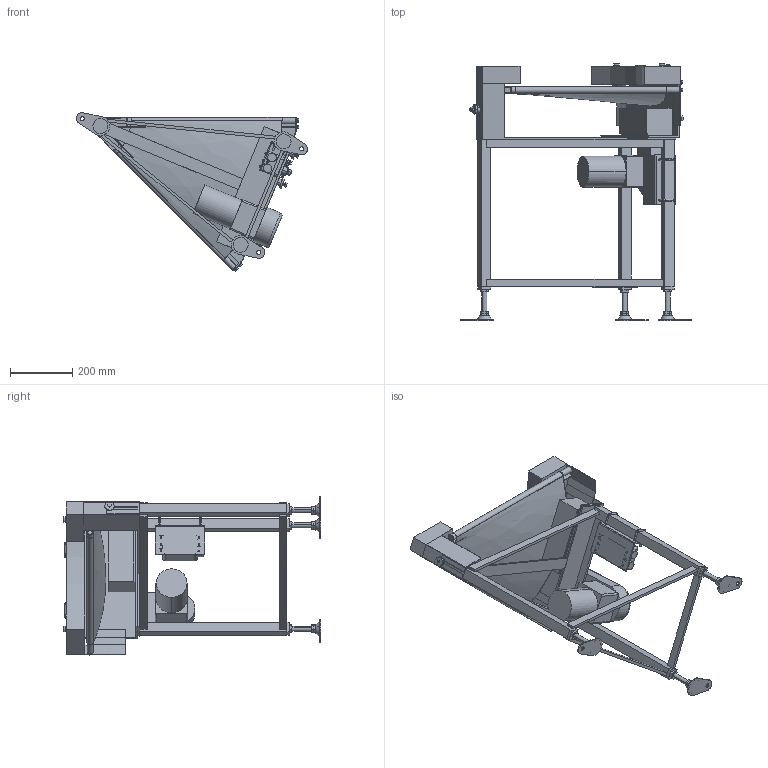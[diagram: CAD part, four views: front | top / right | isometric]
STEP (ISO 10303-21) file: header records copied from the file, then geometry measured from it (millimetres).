
FILE_DESCRIPTION( (''), '2;1');
FILE_NAME ('GFBC-UD-309-400-45°-L-K-60.stp','2025-01-31T09:57:59',(''),(''),'spGate 20.6.2 (****-****-****-****)','','');
FILE_SCHEMA (('AUTOMOTIVE_DESIGN'));
Length unit declared in the file: millimetre
Products named in the file (55): NewModel; TEMP_X_T-prt0; TEMP_X_T-prt1; TEMP_X_T-prt2; TEMP_X_T-prt3; TEMP_X_T-prt4; TEMP_X_T-prt5; TEMP_X_T-prt6; TEMP_X_T-prt7; TEMP_X_T-prt8; TEMP_X_T-prt9; TEMP_X_T-prt10; TEMP_X_T-prt11; TEMP_X_T-prt12; TEMP_X_T-prt13; TEMP_X_T-prt14; TEMP_X_T-prt15; TEMP_X_T-prt16; TEMP_X_T-prt17; TEMP_X_T-prt18; TEMP_X_T-prt19; TEMP_X_T-prt20; TEMP_X_T-prt21; TEMP_X_T-prt22; TEMP_X_T-prt23; TEMP_X_T-prt24; TEMP_X_T-prt25; TEMP_X_T-prt26; TEMP_X_T-prt27; TEMP_X_T-prt28; TEMP_X_T-prt29; TEMP_X_T-prt30; TEMP_X_T-prt31; TEMP_X_T-prt32; TEMP_X_T-prt33; TEMP_X_T-prt34; TEMP_X_T-prt35; TEMP_X_T-prt36; TEMP_X_T-prt37; TEMP_X_T-prt38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
Assembly tree (54 placements, depth 2):
  NewModel
    TEMP_X_T-prt0
    TEMP_X_T-prt1
    TEMP_X_T-prt2
    TEMP_X_T-prt3
    TEMP_X_T-prt4
    TEMP_X_T-prt5
    TEMP_X_T-prt6
    TEMP_X_T-prt7
    TEMP_X_T-prt8
    TEMP_X_T-prt9
    TEMP_X_T-prt10
    TEMP_X_T-prt11
    TEMP_X_T-prt12
    TEMP_X_T-prt13
    TEMP_X_T-prt14
    TEMP_X_T-prt15
    TEMP_X_T-prt16
    TEMP_X_T-prt17
    TEMP_X_T-prt18
    TEMP_X_T-prt19
    TEMP_X_T-prt20
    TEMP_X_T-prt21
    TEMP_X_T-prt22
    TEMP_X_T-prt23
    TEMP_X_T-prt24
    TEMP_X_T-prt25
    TEMP_X_T-prt26
    TEMP_X_T-prt27
    TEMP_X_T-prt28
    TEMP_X_T-prt29
    TEMP_X_T-prt30
    TEMP_X_T-prt31
    TEMP_X_T-prt32
    TEMP_X_T-prt33
    TEMP_X_T-prt34
    TEMP_X_T-prt35
    TEMP_X_T-prt36
    TEMP_X_T-prt37
    TEMP_X_T-prt38
    TEMP_X_T-prt39
    TEMP_X_T-prt40
    TEMP_X_T-prt41
    TEMP_X_T-prt42
    TEMP_X_T-prt43
    TEMP_X_T-prt44
    TEMP_X_T-prt45
    TEMP_X_T-prt46
    TEMP_X_T-prt47
    TEMP_X_T-prt48
    TEMP_X_T-prt49
    TEMP_X_T-prt50
    TEMP_X_T-prt51
    TEMP_X_T-prt52
    TEMP_X_T-prt53
Bounding box: 742.47 x 827.92 x 509.35 mm (x, y, z)
Volume: 14081606.9 mm3; surface area: 2546219.9 mm2
Topology: 54 solids, 54 shells, 1002 faces, 2323 edges, 1509 vertices
Faces by surface type: plane 658, cylinder 282, bspline 58, sphere 4
Entity records: 52399 total; most frequent: CARTESIAN_POINT 9027, DIRECTION 4705, ORIENTED_EDGE 4630, COLOUR_RGB 3371, PRESENTATION_STYLE_ASSIGNMENT 3371, STYLED_ITEM 3371, EDGE_CURVE 2315, DRAUGHTING_PRE_DEFINED_CURVE_FONT 2315
